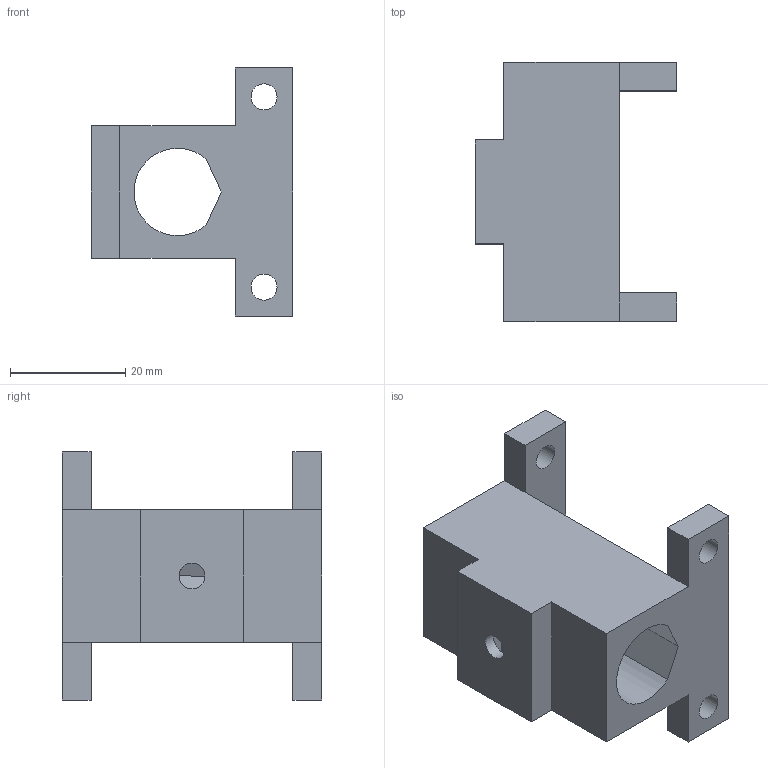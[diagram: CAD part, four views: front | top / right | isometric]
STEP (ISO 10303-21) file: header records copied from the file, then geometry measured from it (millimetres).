
FILE_DESCRIPTION(/* description */ ('STEP AP242 Edition 2','CAx-IF Rec.Pracs.---Representation and Presentation of Product Manufacturing Information (PMI)---4.0---2014-10-13','CAx-IF Rec.Pracs.---3D Tessellated Geometry---0.4---2014-09-14','2;1','CAx-IF Rec.Pracs.---User Defined Attributes---1.5---2016-08-15'),/* implementation_level */ '2;1');
FILE_NAME(/* name */ 'Final Build - pen carriage M',/* time_stamp */ '2026-08-31T23:26:25Z',/* author */ (''),/* organization */ (''),/* preprocessor_version */ 'ST-DEVELOPER v20',/* originating_system */ 'ONSHAPE BY PTC INC, 1.220',/* authorisation */ ' ');
FILE_SCHEMA (('AP242_MANAGED_MODEL_BASED_3D_ENGINEERING_MIM_LF { 1 0 10303 442 3 1 4 }'));
Length unit declared in the file: metre
Products named in the file (1): pen carriage M
Bounding box: 35 x 45 x 43 mm (x, y, z)
Volume: 18529 mm3; surface area: 9737.4 mm2
Topology: 1 solids, 1 shells, 36 faces, 99 edges, 66 vertices
Faces by surface type: plane 29, cylinder 7
Full cylindrical faces by diameter (mm): 4.5 x6
Entity records: 1128 total; most frequent: CARTESIAN_POINT 198, ORIENTED_EDGE 178, DIRECTION 175, EDGE_CURVE 89, LINE 75, VECTOR 75, VERTEX_POINT 62, EDGE_LOOP 57
